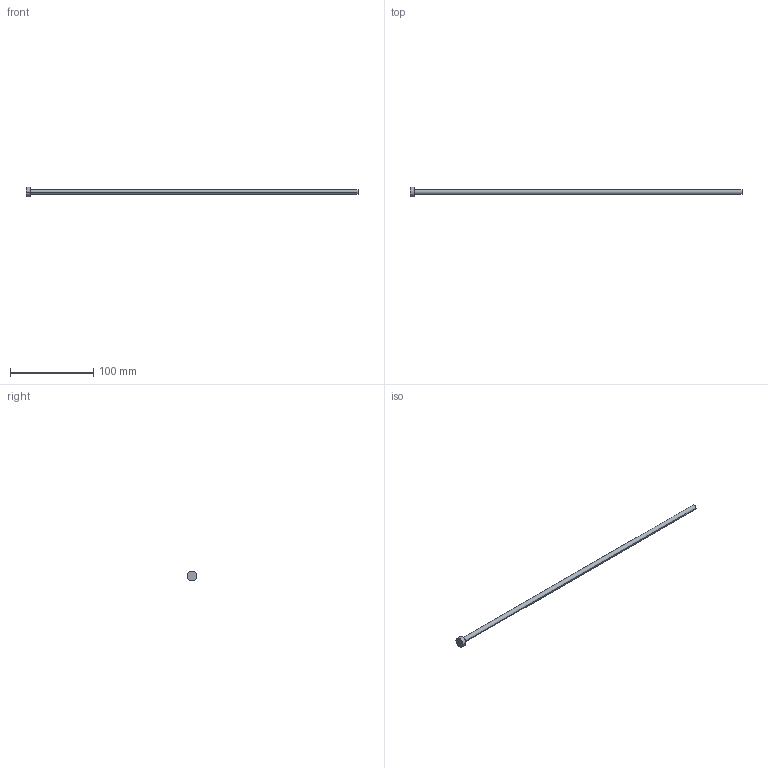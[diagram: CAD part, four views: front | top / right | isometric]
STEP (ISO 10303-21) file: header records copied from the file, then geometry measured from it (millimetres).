
FILE_DESCRIPTION (( 'STEP AP214' ), '1' );
FILE_NAME ('A-6x400.STEP', '2020-05-29T15:41:34', ( 'August' ), ( '' ), 'SwSTEP 2.0', 'SolidWorks 2018', '' );
FILE_SCHEMA (( 'AUTOMOTIVE_DESIGN' ));
Length unit declared in the file: millimetre
Products named in the file (1): A-6x400
Bounding box: 400 x 12 x 12 mm (x, y, z)
Volume: 11734.9 mm3; surface area: 7856.3 mm2
Topology: 1 solids, 1 shells, 9 faces, 16 edges, 10 vertices
Faces by surface type: cylinder 4, plane 3, torus 2
Entity records: 260 total; most frequent: DIRECTION 48, CARTESIAN_POINT 36, ORIENTED_EDGE 32, AXIS2_PLACEMENT_3D 22, EDGE_CURVE 16, CIRCLE 12, VERTEX_POINT 10, EDGE_LOOP 10
